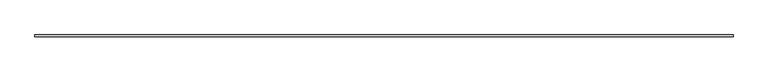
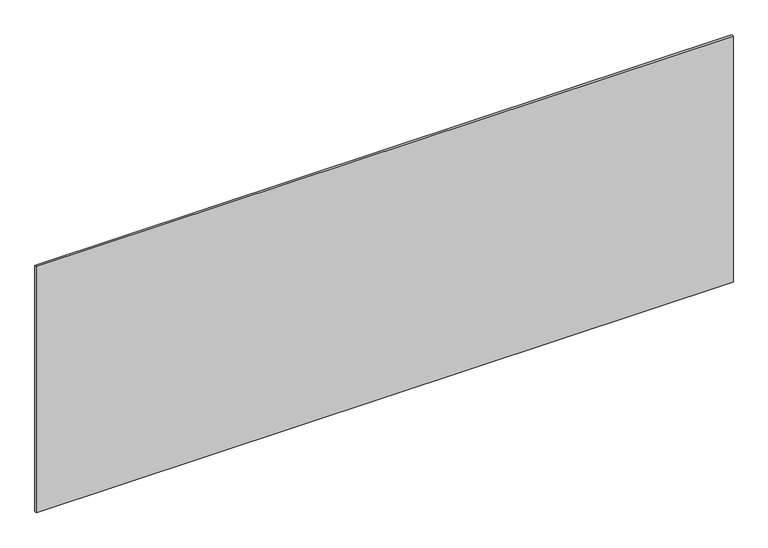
"""IFC4 building model written with IfcOpenShell, lengths in millimetres: plate geometry, システム パネル : 標準."""

import ifcopenshell
import ifcopenshell.guid

model = None  # the IFC model being written
_history = None  # IfcOwnerHistory: only IFC2X3 demands one
_inside = {}  # id of a spatial element -> (the spatial element, [elements in it])
_under = {}  # id of a project, library or spatial element -> (it, [spatial elements below it])
_declared = {}  # id of a project -> (the project, [libraries it declares])
_typed = {}  # id of a type object -> (the type object, [elements of that type])
_made_of = {}  # id of a material, layer set ... -> (it, [elements and type objects made of it])


def new_model(schema):
    """Start an empty IFC model of exactly this schema.

    Asked for "IFC4X3", IfcOpenShell would pick the latest addendum, in which some entities
    have other attributes; the version numbers below select the first issue.
    IFC2X3 requires an IfcOwnerHistory on every rooted entity: one is made here for all.
    """
    global model, _history
    if schema == "IFC4X3":
        model = ifcopenshell.file(schema_version=(4, 3, 0, 0))
    else:
        model = ifcopenshell.file(schema=schema)
    _inside.clear()
    _under.clear()
    _declared.clear()
    _typed.clear()
    _made_of.clear()
    _history = None
    if model.schema == "IFC2X3":
        org = make("IfcOrganization", Name="unknown")
        user = make(
            "IfcPersonAndOrganization",
            ThePerson=make("IfcPerson", FamilyName="unknown"),
            TheOrganization=org,
        )
        app = make(
            "IfcApplication",
            ApplicationDeveloper=org,
            Version="unknown",
            ApplicationFullName="unknown",
            ApplicationIdentifier="unknown",
        )
        _history = make(
            "IfcOwnerHistory",
            OwningUser=user,
            OwningApplication=app,
            ChangeAction="ADDED",
            CreationDate=0,
        )
    return model


def make(cls, **values):
    """One entity of the class cls with the attributes given. An attribute that is None is left unset."""
    return model.create_entity(
        cls, **{name: value for name, value in values.items() if value is not None}
    )


def rooted(cls, **values):
    """An entity with a GlobalId (a new one), such as an element, a storey or a relation."""
    return make(cls, GlobalId=ifcopenshell.guid.new(), OwnerHistory=_history, **values)


def si_unit(unit_type, name, prefix=None):
    """IfcSIUnit, for example si_unit("LENGTHUNIT", "METRE", prefix="MILLI")."""
    return make("IfcSIUnit", UnitType=unit_type, Prefix=prefix, Name=name)


def assignment(units):
    """IfcUnitAssignment: the units of a project."""
    return None if units is None else make("IfcUnitAssignment", Units=units)


def point(xyz):
    """IfcCartesianPoint."""
    return None if xyz is None else make("IfcCartesianPoint", Coordinates=xyz)


def direction(xyz):
    """IfcDirection."""
    return None if xyz is None else make("IfcDirection", DirectionRatios=xyz)


def frame(location, z_axis=None, x_axis=None):
    """IfcAxis2Placement3D, a coordinate frame: its origin and axes. An axis left out is left unset."""
    return make(
        "IfcAxis2Placement3D",
        Location=point(location),
        Axis=direction(z_axis),
        RefDirection=direction(x_axis),
    )


def origin():
    """The frame at (0, 0, 0) with its axes left unset."""
    return frame((0.0, 0.0, 0.0))


def origin_with_axes():
    """The frame at (0, 0, 0) with the z axis (0, 0, 1) and the x axis (1, 0, 0) written out."""
    return frame((0.0, 0.0, 0.0), z_axis=(0.0, 0.0, 1.0), x_axis=(1.0, 0.0, 0.0))


def place(relative_to, where):
    """IfcLocalPlacement: puts the frame where relative to a parent placement (None: the world)."""
    return make(
        "IfcLocalPlacement", PlacementRelTo=relative_to, RelativePlacement=where
    )


def context(
    kind, dimensions, precision=None, world=None, true_north=None, identifier=None
):
    """IfcGeometricRepresentationContext, for example the 3D "Model" context."""
    return make(
        "IfcGeometricRepresentationContext",
        ContextIdentifier=identifier,
        ContextType=kind,
        CoordinateSpaceDimension=dimensions,
        Precision=precision,
        WorldCoordinateSystem=world,
        TrueNorth=true_north,
    )


def project(units=None, contexts=None):
    """IfcProject with its units and contexts."""
    return rooted(
        "IfcProject",
        Name="project",
        RepresentationContexts=contexts,
        UnitsInContext=assignment(units),
    )


def spatial(cls, under=None, at=None, **own):
    """A site, building, storey or space (cls), placed at a placement, below another one or the project."""
    s = rooted(cls, ObjectPlacement=at, **own)
    if under is not None:
        _under.setdefault(under.id(), (under, []))[1].append(s)
    return s


def polyline(points):
    """IfcPolyline through the points."""
    return make("IfcPolyline", Points=[point(p) for p in points])


def outline(outer, holes=None, kind="AREA"):
    """IfcArbitraryClosedProfileDef: a profile drawn as a closed curve; with holes, ...WithVoids."""
    if holes is None:
        return make("IfcArbitraryClosedProfileDef", ProfileType=kind, OuterCurve=outer)
    return make(
        "IfcArbitraryProfileDefWithVoids",
        ProfileType=kind,
        OuterCurve=outer,
        InnerCurves=holes,
    )


def extrude(swept, where, along, depth):
    """IfcExtrudedAreaSolid: the profile swept, set in the frame where, extruded along a direction by depth."""
    return make(
        "IfcExtrudedAreaSolid",
        SweptArea=swept,
        Position=where,
        ExtrudedDirection=direction(along),
        Depth=depth,
    )


def shape(context_of_items, identifier, shape_type, items):
    """IfcShapeRepresentation: the items that make up one representation, for example the "Body"."""
    return make(
        "IfcShapeRepresentation",
        ContextOfItems=context_of_items,
        RepresentationIdentifier=identifier,
        RepresentationType=shape_type,
        Items=items,
    )


def source(mapping_origin, context_of_items, identifier, shape_type, items):
    """IfcRepresentationMap: a shape defined once, which mapped items show again and again."""
    return make(
        "IfcRepresentationMap",
        MappingOrigin=mapping_origin,
        MappedRepresentation=shape(context_of_items, identifier, shape_type, items),
    )


def transform(
    local_origin,
    x_axis=None,
    y_axis=None,
    z_axis=None,
    scale=None,
    scale2=None,
    scale3=None,
    uniform=True,
):
    """IfcCartesianTransformationOperator3D, or its non-uniform kind. x_axis, y_axis, z_axis: its Axis1, 2, 3."""
    if uniform:
        return make(
            "IfcCartesianTransformationOperator3D",
            Axis1=direction(x_axis),
            Axis2=direction(y_axis),
            LocalOrigin=point(local_origin),
            Scale=scale,
            Axis3=direction(z_axis),
        )
    return make(
        "IfcCartesianTransformationOperator3DnonUniform",
        Axis1=direction(x_axis),
        Axis2=direction(y_axis),
        LocalOrigin=point(local_origin),
        Scale=scale,
        Axis3=direction(z_axis),
        Scale2=scale2,
        Scale3=scale3,
    )


def mapped(mapping_source, mapping_target):
    """IfcMappedItem: shows the shape of a source again, moved by a transform."""
    return make(
        "IfcMappedItem", MappingSource=mapping_source, MappingTarget=mapping_target
    )


def made_of(thing, what):
    """Note that an element or type object is made of a material, layer set ...; save() writes the relation."""
    if what is not None:
        _made_of.setdefault(what.id(), (what, []))[1].append(thing)
    return thing


def element(
    cls,
    number,
    at=None,
    inside=None,
    cuts=None,
    type_object=None,
    material=None,
    context=None,
    identifier="Body",
    shape_type=None,
    held_by="IfcProductDefinitionShape",
    body=None,
    shapes=None,
    **own,
):
    """One element of the class cls, such as IfcWall. Its Tag is "e" and its number.

    at: its placement. inside: the storey or other place that contains it. cuts: it is an
    opening in that element (IfcRelVoidsElement). A single representation is given by context,
    identifier, shape_type and body (its items); several are given by shapes. held_by: the class
    of the entity that holds the representations. save() writes the other relations.
    """
    e = rooted(cls, Tag="e%d" % number, ObjectPlacement=at, **own)
    if body is not None:
        shapes = [shape(context, identifier, shape_type, body)]
    if shapes is not None:
        e.Representation = make(held_by, Representations=shapes)
    if inside is not None:
        _inside.setdefault(inside.id(), (inside, []))[1].append(e)
    if cuts is not None:
        rooted(
            "IfcRelVoidsElement", RelatingBuildingElement=cuts, RelatedOpeningElement=e
        )
    if type_object is not None:
        _typed.setdefault(type_object.id(), (type_object, []))[1].append(e)
    return made_of(e, material)


def aggregate(whole, parts):
    """IfcRelAggregates: a whole, such as a stair, and the parts it consists of."""
    return rooted("IfcRelAggregates", RelatingObject=whole, RelatedObjects=parts)


def save(model, path):
    """Write the relations noted so far, then the file.

    IfcRelAggregates (storeys below a building ...), IfcRelContainedInSpatialStructure (elements
    in a storey), IfcRelDefinesByType, IfcRelAssociatesMaterial and IfcRelDeclares: one each for
    every whole, place, type object, material and project.
    """
    for whole, parts in _under.values():
        aggregate(whole, parts)
    for where, things in _inside.values():
        rooted(
            "IfcRelContainedInSpatialStructure",
            RelatedElements=things,
            RelatingStructure=where,
        )
    for kind, things in _typed.values():
        rooted("IfcRelDefinesByType", RelatedObjects=things, RelatingType=kind)
    for what, things in _made_of.values():
        rooted("IfcRelAssociatesMaterial", RelatedObjects=things, RelatingMaterial=what)
    for by, libraries in _declared.values():
        rooted("IfcRelDeclares", RelatingContext=by, RelatedDefinitions=libraries)
    model.write(path)


def plate_8ad4f2da(model_context):
    return source(origin(), model_context, "Body", "SweptSolid", [
        extrude(outline(polyline([(1715.0, -5.0), (-1715.0, -5.0), (-1715.0, 5.0), (1715.0, 5.0), (1715.0, -5.0)])), origin_with_axes(), (0.0, 0.0, 1.0), 1281.207091),
    ])


if __name__ == "__main__":
    model = new_model("IFC4")
    model_context = context("Model", 3, world=origin())
    ifc_project = project(units=[si_unit("LENGTHUNIT", "METRE", prefix="MILLI")], contexts=[model_context])
    site = spatial("IfcSite", under=ifc_project)
    building = spatial("IfcBuilding", under=site)
    placement = place(None, origin())
    plate_shape = plate_8ad4f2da(model_context)
    element("IfcPlate", 1, ObjectType="システム パネル : 標準", at=placement, inside=building, context=model_context, shape_type="MappedRepresentation", body=[
        mapped(plate_shape, transform((0.0, 0.0, 0.0), x_axis=(1.0, 0.0, 0.0), y_axis=(0.0, 1.0, 0.0), z_axis=(0.0, 0.0, 1.0))),
    ])
    save(model, "model.ifc")
